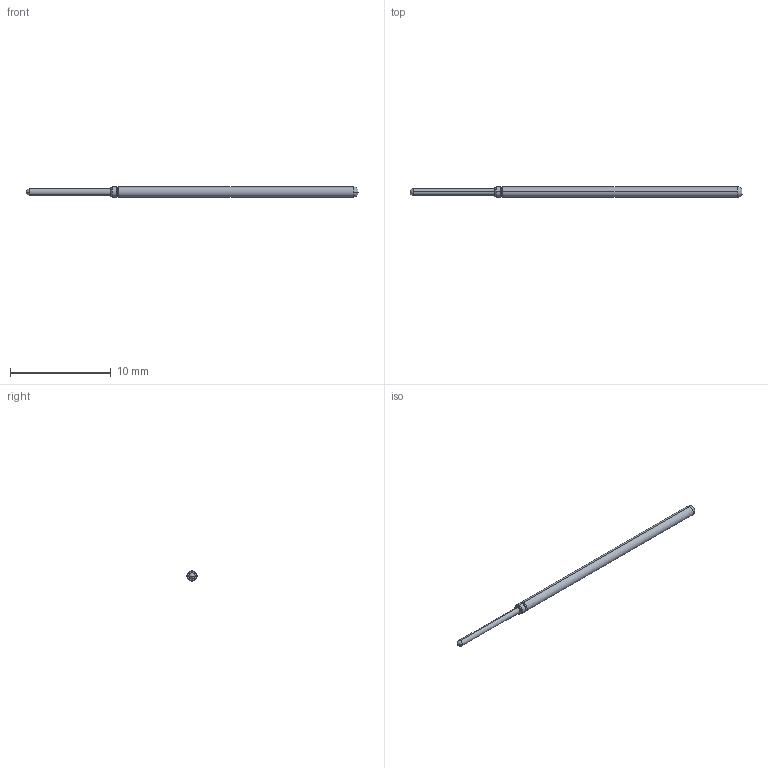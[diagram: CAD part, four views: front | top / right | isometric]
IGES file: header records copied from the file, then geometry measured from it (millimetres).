
Start section: SolidWorks IGES file using analytic representation for surfaces
Global section: file name: Z:\probe solid model mockups\Solidworks models\Parts\LFRE-1J.IGS; native system: SolidWorks 2016; preprocessor: SolidWorks 2016; author: mlee; date: 180927.163431; units: inch
Bounding box: 33.02 x 1.02 x 1.02 mm (x, y, z)
Surface area: 95.3 mm2 (no closed solid volume)
Topology: 0 solids, 0 shells, 20 faces, 128 edges, 126 vertices
Faces by surface type: revolution 14, bspline 6
